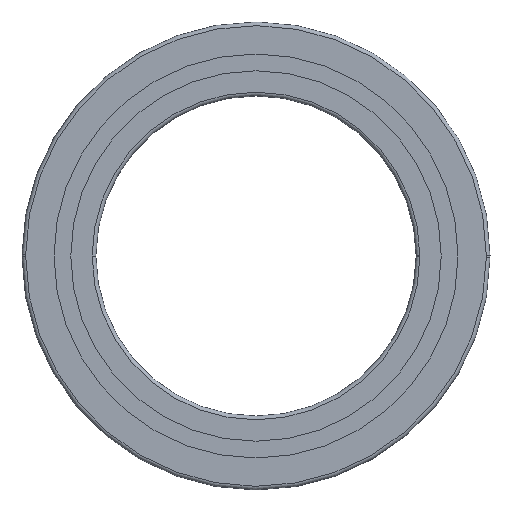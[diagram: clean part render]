
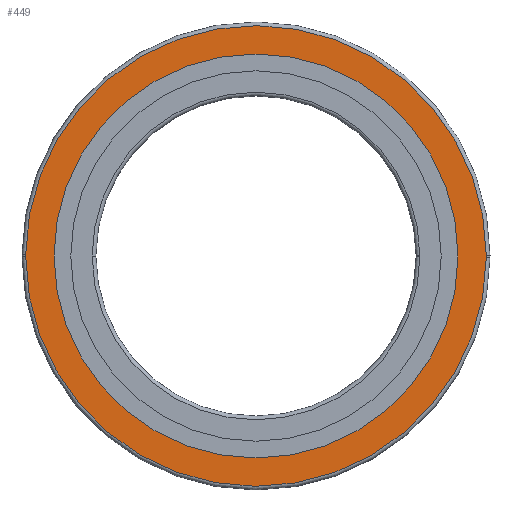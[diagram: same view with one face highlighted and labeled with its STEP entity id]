
A CAD part, front view. The second image highlights one B-rep face of the part: STEP entity #449.
In plain terms, the highlighted planar face has unit normal (0, -1, 0).
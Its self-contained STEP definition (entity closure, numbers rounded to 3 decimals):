
#239=EDGE_CURVE('',#369,#579,#640,.T.);
#245=EDGE_CURVE('',#479,#359,#646,.T.);
#285=VERTEX_POINT('',#692);
#291=VERTEX_POINT('',#698);
#355=EDGE_CURVE('',#291,#369,#767,.T.);
#359=VERTEX_POINT('',#771);
#361=EDGE_CURVE('',#579,#285,#773,.T.);
#369=VERTEX_POINT('',#783);
#391=EDGE_CURVE('',#359,#479,#808,.T.);
#449=ADVANCED_FACE('',(#876,#877),#878,.F.);
#479=VERTEX_POINT('',#913);
#543=EDGE_CURVE('',#285,#291,#982,.T.);
#579=VERTEX_POINT('',#1026);
#640=CIRCLE('',#1086,93.5);
#646=CIRCLE('',#1094,82.0);
#692=CARTESIAN_POINT('',(93.5,0.0,0.0));
#698=CARTESIAN_POINT('',(-93.498,0.0,0.58));
#767=CIRCLE('',#1253,93.5);
#771=CARTESIAN_POINT('',(82.0,0.0,0.));
#773=CIRCLE('',#1260,93.5);
#783=CARTESIAN_POINT('',(-93.5,0.0,0.));
#808=CIRCLE('',#1302,82.0);
#876=FACE_OUTER_BOUND('',#1382,.T.);
#877=FACE_BOUND('',#1383,.T.);
#878=PLANE('',#1384);
#913=CARTESIAN_POINT('',(-82.0,0.0,0.0));
#982=CIRCLE('',#1514,93.5);
#1026=CARTESIAN_POINT('',(93.498,0.0,-0.58));
#1086=AXIS2_PLACEMENT_3D('',#1609,#1610,#1611);
#1094=AXIS2_PLACEMENT_3D('',#1615,#1616,#1617);
#1253=AXIS2_PLACEMENT_3D('',#1772,#1773,#1774);
#1260=AXIS2_PLACEMENT_3D('',#1775,#1776,#1777);
#1302=AXIS2_PLACEMENT_3D('',#1827,#1828,#1829);
#1382=EDGE_LOOP('',(#1947,#1948,#1949,#1950));
#1383=EDGE_LOOP('',(#1951,#1952));
#1384=AXIS2_PLACEMENT_3D('',#1953,#1954,#1955);
#1514=AXIS2_PLACEMENT_3D('',#2080,#2081,#2082);
#1609=CARTESIAN_POINT('',(0.0,0.0,0.0));
#1610=DIRECTION('',(0.0,-1.0,0.0));
#1611=DIRECTION('',(-1.0,0.0,0.0));
#1615=CARTESIAN_POINT('',(0.0,0.0,0.0));
#1616=DIRECTION('',(0.0,-1.0,0.0));
#1617=DIRECTION('',(-1.0,0.0,0.0));
#1772=CARTESIAN_POINT('',(0.0,0.0,0.0));
#1773=DIRECTION('',(0.0,-1.0,0.0));
#1774=DIRECTION('',(1.0,0.0,0.0));
#1775=CARTESIAN_POINT('',(0.0,0.0,0.0));
#1776=DIRECTION('',(0.0,-1.0,0.0));
#1777=DIRECTION('',(-1.0,0.0,0.0));
#1827=CARTESIAN_POINT('',(0.0,0.0,0.0));
#1828=DIRECTION('',(0.0,-1.0,0.0));
#1829=DIRECTION('',(1.0,0.0,0.0));
#1947=ORIENTED_EDGE('',*,*,#239,.T.);
#1948=ORIENTED_EDGE('',*,*,#361,.T.);
#1949=ORIENTED_EDGE('',*,*,#543,.T.);
#1950=ORIENTED_EDGE('',*,*,#355,.T.);
#1951=ORIENTED_EDGE('',*,*,#245,.F.);
#1952=ORIENTED_EDGE('',*,*,#391,.F.);
#1953=CARTESIAN_POINT('',(0.0,0.0,0.0));
#1954=DIRECTION('',(0.0,1.0,0.0));
#1955=DIRECTION('',(1.0,0.0,-0.0));
#2080=CARTESIAN_POINT('',(0.0,0.0,0.0));
#2081=DIRECTION('',(0.0,-1.0,0.0));
#2082=DIRECTION('',(1.0,0.0,0.0));
